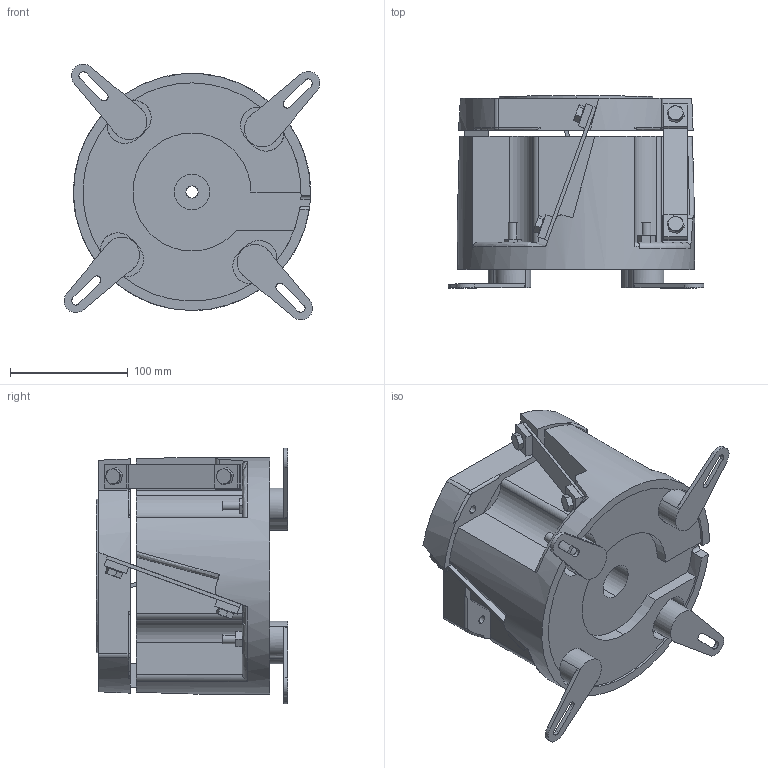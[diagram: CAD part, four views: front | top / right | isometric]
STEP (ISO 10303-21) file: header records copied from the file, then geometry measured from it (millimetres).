
FILE_DESCRIPTION(/* description */ (''),/* implementation_level */ '2;1');
FILE_NAME(/* name */ 'JM200.stp',/* time_stamp */ '2022-04-19T10:44:51+08:00',/* author */ (''),/* organization */ (''),/* preprocessor_version */ 'ST-DEVELOPER v18.102',/* originating_system */ 'SIEMENS PLM Software NX 2019',/* authorisation */ '');
FILE_SCHEMA (('AUTOMOTIVE_DESIGN { 1 0 10303 214 3 1 1 1 }'));
Length unit declared in the file: millimetre
Products named in the file (1): JM200_stp_objects
Bounding box: 216.88 x 162.5 x 216.88 mm (x, y, z)
Volume: 3095564.7 mm3; surface area: 320983.2 mm2
Topology: 30 solids, 33 shells, 724 faces, 1796 edges, 1157 vertices
Faces by surface type: plane 364, cylinder 217, cone 124, torus 14, bspline 5
Full cylindrical faces by diameter (mm): 201 x1
Entity records: 22793 total; most frequent: CARTESIAN_POINT 5125, DIRECTION 3598, ORIENTED_EDGE 3588, EDGE_CURVE 1794, AXIS2_PLACEMENT_3D 1359, VERTEX_POINT 1156, LINE 880, VECTOR 880
